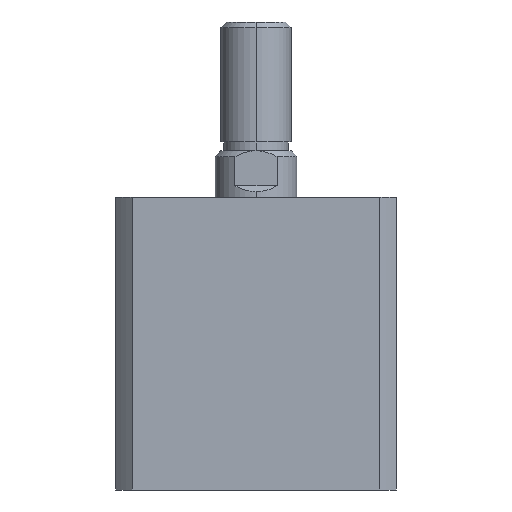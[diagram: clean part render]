
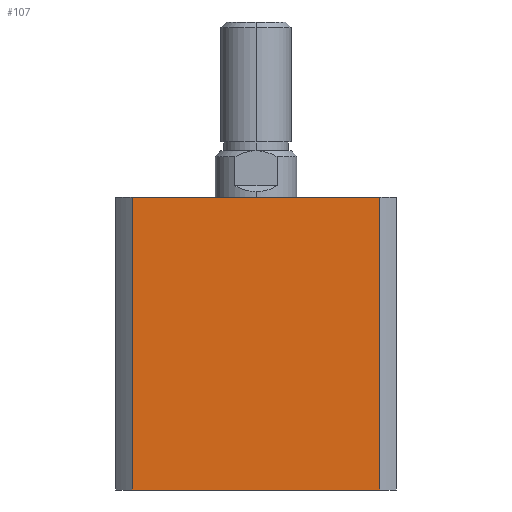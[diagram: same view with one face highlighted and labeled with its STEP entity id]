
A CAD part, left-side view. The second image highlights one B-rep face of the part: STEP entity #107.
In plain terms, the highlighted planar face has unit normal (-1, 0, 0).
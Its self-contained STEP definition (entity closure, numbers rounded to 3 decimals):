
#107 = ADVANCED_FACE ( 'NONE', ( #4357 ), #4573, .F. ) ;
#804 = CARTESIAN_POINT ( 'NONE',  ( -24., -21.166, 0. ) ) ;
#826 = CARTESIAN_POINT ( 'NONE',  ( -24., 21.166, 0. ) ) ;
#832 = CARTESIAN_POINT ( 'NONE',  ( -24., -21.166, 50. ) ) ;
#923 = CARTESIAN_POINT ( 'NONE',  ( -24., 21.166, 50. ) ) ;
#1144 = LINE ( 'NONE', #1970, #1149 ) ;
#1145 = LINE ( 'NONE', #2002, #1153 ) ;
#1147 = LINE ( 'NONE', #2003, #1151 ) ;
#1149 = VECTOR ( 'NONE', #1969, 1000. ) ;
#1151 = VECTOR ( 'NONE', #2008, 1000. ) ;
#1153 = VECTOR ( 'NONE', #2010, 1000. ) ;
#1350 = LINE ( 'NONE', #2853, #1352 ) ;
#1352 = VECTOR ( 'NONE', #2854, 1000. ) ;
#1597 = EDGE_CURVE ( 'NONE', #4128, #4108, #1144, .T. ) ;
#1598 = EDGE_CURVE ( 'NONE', #4134, #4108, #1147, .T. ) ;
#1599 = EDGE_CURVE ( 'NONE', #4319, #4128, #1145, .T. ) ;
#1969 = DIRECTION ( 'NONE',  ( 0., -1., 0. ) ) ;
#1970 = CARTESIAN_POINT ( 'NONE',  ( -24., 0., 0. ) ) ;
#2002 = CARTESIAN_POINT ( 'NONE',  ( -24., 21.166, 50. ) ) ;
#2003 = CARTESIAN_POINT ( 'NONE',  ( -24., -21.166, 50. ) ) ;
#2008 = DIRECTION ( 'NONE',  ( 0., 0., -1. ) ) ;
#2010 = DIRECTION ( 'NONE',  ( 0., 0., -1. ) ) ;
#2599 = AXIS2_PLACEMENT_3D ( 'NONE', #4727, #4582, #4698 ) ;
#2731 = EDGE_CURVE ( 'NONE', #4319, #4134, #1350, .T. ) ;
#2853 = CARTESIAN_POINT ( 'NONE',  ( -24., 0., 50. ) ) ;
#2854 = DIRECTION ( 'NONE',  ( 0., -1., 0. ) ) ;
#3921 = ORIENTED_EDGE ( 'NONE', *, *, #1599, .T. ) ;
#3922 = ORIENTED_EDGE ( 'NONE', *, *, #2731, .F. ) ;
#3923 = ORIENTED_EDGE ( 'NONE', *, *, #1598, .F. ) ;
#3924 = ORIENTED_EDGE ( 'NONE', *, *, #1597, .T. ) ;
#3971 = EDGE_LOOP ( 'NONE', ( #3924, #3923, #3922, #3921 ) ) ;
#4108 = VERTEX_POINT ( 'NONE', #804 ) ;
#4128 = VERTEX_POINT ( 'NONE', #826 ) ;
#4134 = VERTEX_POINT ( 'NONE', #832 ) ;
#4319 = VERTEX_POINT ( 'NONE', #923 ) ;
#4357 = FACE_OUTER_BOUND ( 'NONE', #3971, .T. ) ;
#4573 = PLANE ( 'NONE',  #2599 ) ;
#4582 = DIRECTION ( 'NONE',  ( 1., 0., 0. ) ) ;
#4698 = DIRECTION ( 'NONE',  ( 0., 0., -1. ) ) ;
#4727 = CARTESIAN_POINT ( 'NONE',  ( -24., 0., 50. ) ) ;
